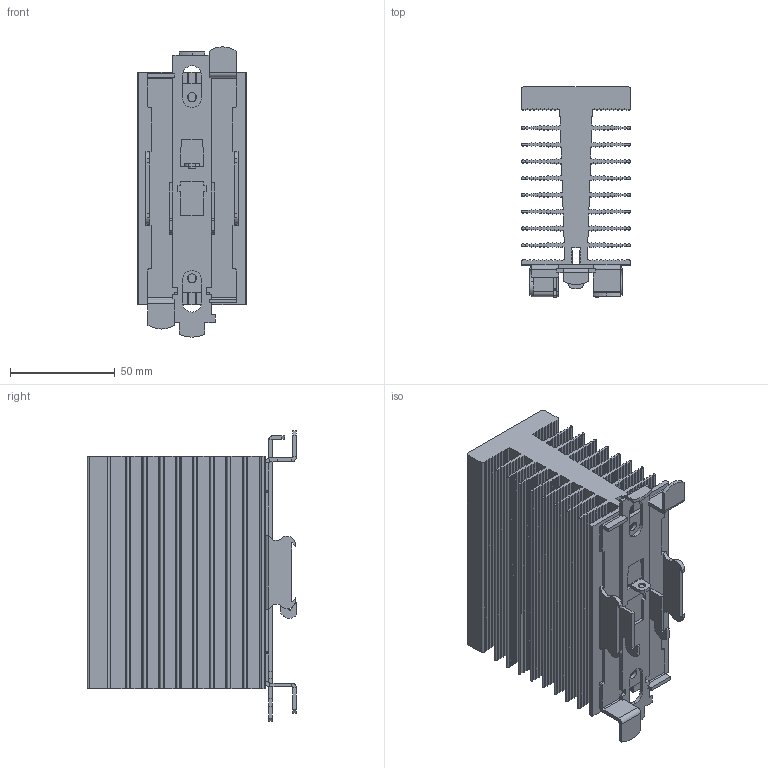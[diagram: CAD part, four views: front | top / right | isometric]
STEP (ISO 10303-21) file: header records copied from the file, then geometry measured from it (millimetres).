
FILE_DESCRIPTION (( 'STEP AP214' ), '1' );
FILE_NAME ('HP-01.STEP', '2026-05-12T04:03:36', ( '' ), ( '' ), 'SwSTEP 2.0', 'SolidWorks 2022', '' );
FILE_SCHEMA (( 'AUTOMOTIVE_DESIGN' ));
Length unit declared in the file: millimetre
Products named in the file (1): HP-01
Bounding box: 52 x 100.22 x 138.65 mm (x, y, z)
Volume: 240105.8 mm3; surface area: 136159.2 mm2
Topology: 3 solids, 3 shells, 1565 faces, 4583 edges, 3024 vertices
Faces by surface type: plane 946, cylinder 603, bspline 8, cone 8
Entity records: 80172 total; most frequent: CARTESIAN_POINT 21475, ORIENTED_EDGE 9158, DIRECTION 8287, EDGE_CURVE 4579, LINE 3347, VECTOR 3347, VERTEX_POINT 3024, AXIS2_PLACEMENT_3D 2470
